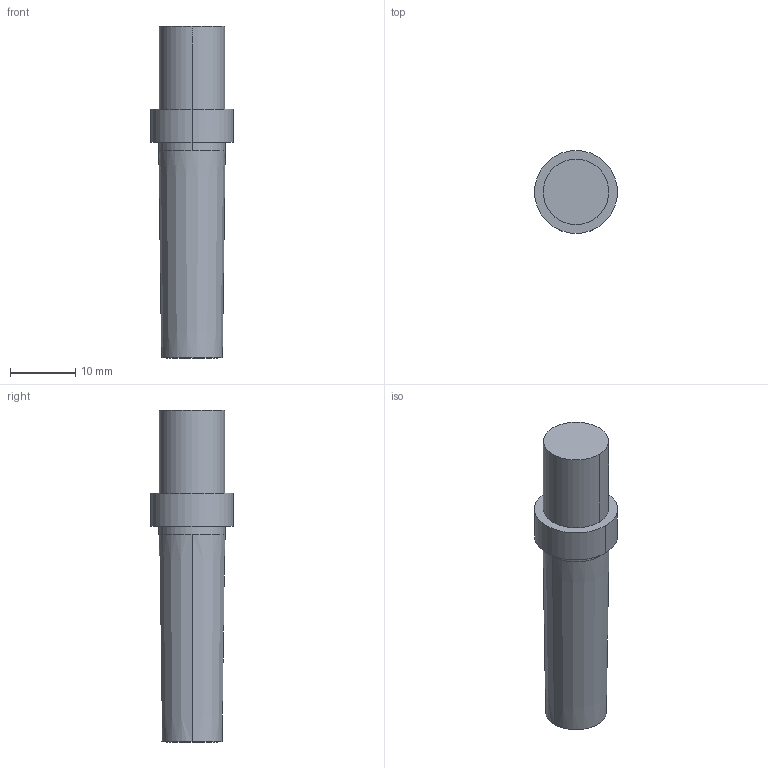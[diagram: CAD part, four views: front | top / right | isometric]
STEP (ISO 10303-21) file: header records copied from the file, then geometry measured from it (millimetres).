
FILE_DESCRIPTION (( 'STEP AP203' ), '1' );
FILE_NAME ('RMADAPTER-2M.step', '2019-09-11T18:25:02', ( 'ydmin' ), ( '' ), 'SwSTEP 2.0', 'SolidWorks 2017', '' );
FILE_SCHEMA (( 'CONFIG_CONTROL_DESIGN' ));
Length unit declared in the file: inch
Products named in the file (1): RMADAPTER-2M
Bounding box: 12.7 x 12.7 x 50.8 mm (x, y, z)
Volume: 2811.9 mm3; surface area: 2495.1 mm2
Topology: 1 solids, 1 shells, 16 faces, 34 edges, 21 vertices
Faces by surface type: cylinder 8, cone 4, plane 4
Entity records: 507 total; most frequent: DIRECTION 86, CARTESIAN_POINT 70, ORIENTED_EDGE 64, AXIS2_PLACEMENT_3D 37, EDGE_CURVE 32, VERTEX_POINT 21, CIRCLE 20, EDGE_LOOP 19
